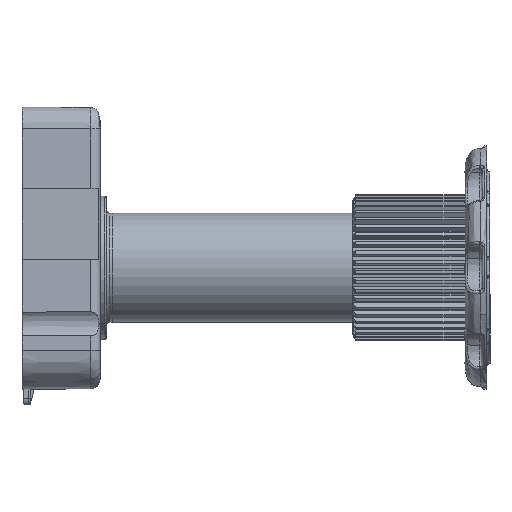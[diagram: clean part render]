
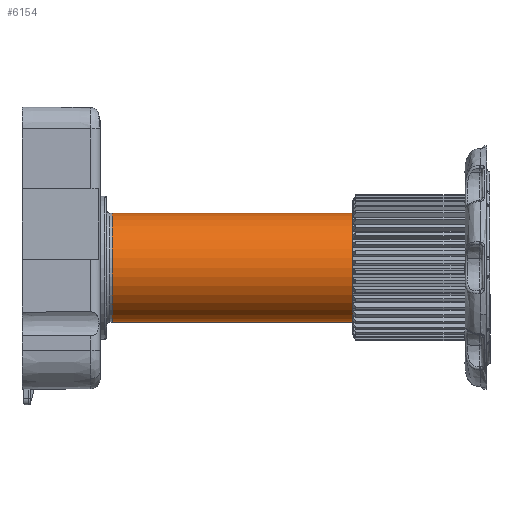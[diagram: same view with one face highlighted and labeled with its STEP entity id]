
A CAD part, front view. The second image highlights one B-rep face of the part: STEP entity #6154.
In plain terms, the highlighted cylindrical face has radius 17.5 mm (diameter 35 mm), a partial arc.
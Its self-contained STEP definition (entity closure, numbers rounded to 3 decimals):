
#880 = ORIENTED_EDGE ( 'NONE', *, *, #5556, .F. ) ;
#1321 = CARTESIAN_POINT ( 'NONE',  ( 68.121, 16.074, 17.5 ) ) ;
#5227 = CARTESIAN_POINT ( 'NONE',  ( -23.775, 16.074, -17.5 ) ) ;
#5556 = EDGE_CURVE ( 'NONE', #12769, #13132, #15472, .T. ) ;
#5608 = ORIENTED_EDGE ( 'NONE', *, *, #37550, .T. ) ;
#6036 = EDGE_CURVE ( 'NONE', #13132, #27920, #34318, .T. ) ;
#6154 = ADVANCED_FACE ( 'NONE', ( #23113 ), #9913, .T. ) ;
#9913 = CYLINDRICAL_SURFACE ( 'NONE', #38337, 17.5 ) ;
#11142 = DIRECTION ( 'NONE',  ( 0., 0., 1. ) ) ;
#11324 = CARTESIAN_POINT ( 'NONE',  ( -23.775, 16.074, 17.5 ) ) ;
#12404 = CARTESIAN_POINT ( 'NONE',  ( 63.225, 16.074, 0. ) ) ;
#12769 = VERTEX_POINT ( 'NONE', #21905 ) ;
#13132 = VERTEX_POINT ( 'NONE', #5227 ) ;
#13238 = EDGE_CURVE ( 'NONE', #12769, #39865, #17391, .T. ) ;
#15472 = LINE ( 'NONE', #40734, #25925 ) ;
#15777 = DIRECTION ( 'NONE',  ( 0., 0., 1. ) ) ;
#15841 = EDGE_LOOP ( 'NONE', ( #880, #40235, #5608, #22256 ) ) ;
#17370 = DIRECTION ( 'NONE',  ( -1., 0., 0. ) ) ;
#17391 = CIRCLE ( 'NONE', #27474, 17.5 ) ;
#19460 = VECTOR ( 'NONE', #17370, 1000. ) ;
#21905 = CARTESIAN_POINT ( 'NONE',  ( 63.225, 16.074, -17.5 ) ) ;
#21956 = DIRECTION ( 'NONE',  ( -1., 0., 0. ) ) ;
#22101 = DIRECTION ( 'NONE',  ( -1., 0., 0. ) ) ;
#22256 = ORIENTED_EDGE ( 'NONE', *, *, #6036, .F. ) ;
#23113 = FACE_OUTER_BOUND ( 'NONE', #15841, .T. ) ;
#25925 = VECTOR ( 'NONE', #21956, 1000. ) ;
#27474 = AXIS2_PLACEMENT_3D ( 'NONE', #12404, #31996, #15777 ) ;
#27920 = VERTEX_POINT ( 'NONE', #11324 ) ;
#29592 = AXIS2_PLACEMENT_3D ( 'NONE', #38142, #22101, #34987 ) ;
#30063 = CARTESIAN_POINT ( 'NONE',  ( 63.225, 16.074, 17.5 ) ) ;
#31996 = DIRECTION ( 'NONE',  ( -1., 0., 0. ) ) ;
#34318 = CIRCLE ( 'NONE', #29592, 17.5 ) ;
#34987 = DIRECTION ( 'NONE',  ( 0., 0., -1. ) ) ;
#35589 = CARTESIAN_POINT ( 'NONE',  ( 68.121, 16.074, 0. ) ) ;
#35794 = DIRECTION ( 'NONE',  ( -1., 0., 0. ) ) ;
#37550 = EDGE_CURVE ( 'NONE', #39865, #27920, #40104, .T. ) ;
#38142 = CARTESIAN_POINT ( 'NONE',  ( -23.775, 16.074, 0. ) ) ;
#38337 = AXIS2_PLACEMENT_3D ( 'NONE', #35589, #35794, #11142 ) ;
#39865 = VERTEX_POINT ( 'NONE', #30063 ) ;
#40104 = LINE ( 'NONE', #1321, #19460 ) ;
#40235 = ORIENTED_EDGE ( 'NONE', *, *, #13238, .T. ) ;
#40734 = CARTESIAN_POINT ( 'NONE',  ( 68.121, 16.074, -17.5 ) ) ;
